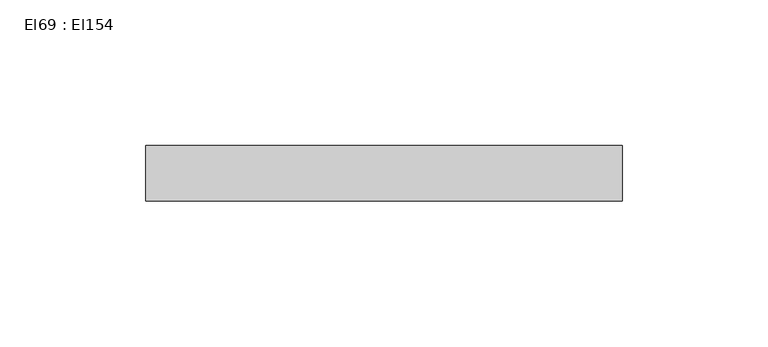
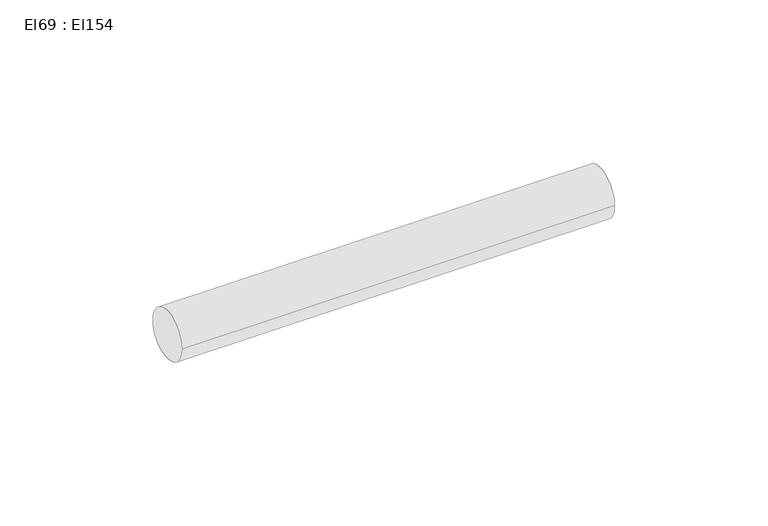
"""IFC4 building model written with IfcOpenShell, lengths in millimetres: cable carrier segment geometry, El69 : El154."""

from ifc_helpers import new_model, si_unit, point, frame, frame_2d, origin, place, context, project, spatial, circle_curve, trimmed, segment, composite_curve, outline, extrude, source, transform, mapped, element, save


def el69_el154_8347e9b6(model_context):
    return source(origin(), model_context, "Body", "SweptSolid", [
        extrude(outline(composite_curve([segment(trimmed(circle_curve(frame_2d((4566.0121745, 2700.0)), 9.5), [point((4556.5121745, 2700.0))], [point((4575.5121745, 2700.0))], False, "CARTESIAN"), True, "CONTINUOUS"), segment(trimmed(circle_curve(frame_2d((4566.0121745, 2700.0)), 9.5), [point((4575.5121745, 2700.0))], [point((4556.5121745, 2700.0))], False, "CARTESIAN"), True, "CONTINUOUS")], self_intersect=False)), frame((21210.6023511, 0.0, 0.0), z_axis=(1.0, 0.0, 0.0), x_axis=(0.0, 1.0, 0.0)), (0.0, 0.0, 1.0), 163.145),
    ])


if __name__ == "__main__":
    model = new_model("IFC4")
    model_context = context("Model", 3, world=origin())
    ifc_project = project(units=[si_unit("LENGTHUNIT", "METRE", prefix="MILLI")], contexts=[model_context])
    site = spatial("IfcSite", under=ifc_project)
    building = spatial("IfcBuilding", under=site)
    placement = place(None, origin())
    el69_el154_shape = el69_el154_8347e9b6(model_context)
    element("IfcCableCarrierSegment", 1, ObjectType="El69 : El154", at=placement, inside=building, context=model_context, shape_type="MappedRepresentation", body=[
        mapped(el69_el154_shape, transform((0.0, 0.0, 0.0), x_axis=(1.0, 0.0, 0.0), y_axis=(0.0, 1.0, 0.0), z_axis=(0.0, 0.0, 1.0))),
    ])
    save(model, "model.ifc")
